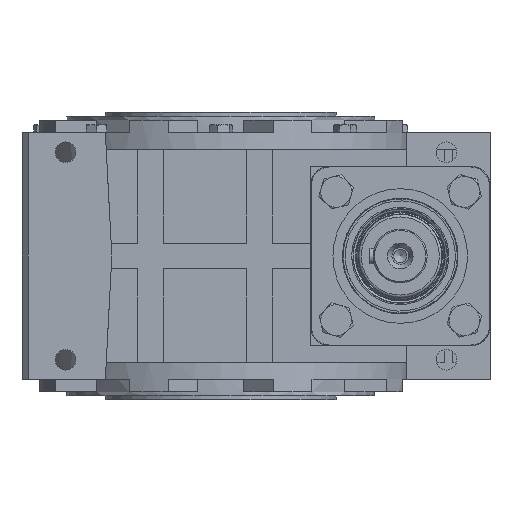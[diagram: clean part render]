
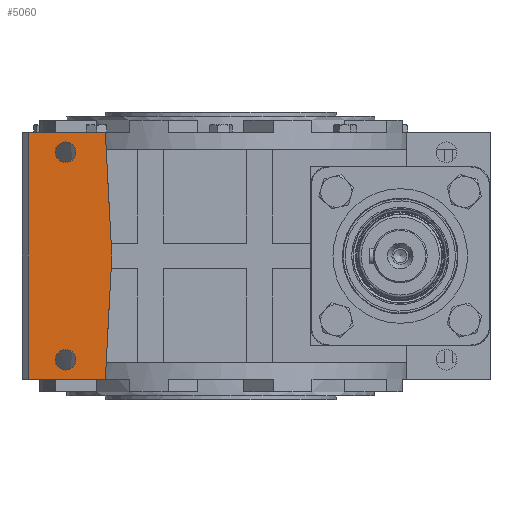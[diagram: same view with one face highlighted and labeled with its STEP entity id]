
A CAD part, left-side view. The second image highlights one B-rep face of the part: STEP entity #5060.
In plain terms, the highlighted planar face has unit normal (-1, 0, 0).
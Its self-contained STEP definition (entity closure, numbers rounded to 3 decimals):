
#1365 = EDGE_CURVE ( 'NONE', #22071, #10780, #16935, .T. ) ;
#1487 = EDGE_CURVE ( 'NONE', #11119, #16362, #15025, .T. ) ;
#1581 = CARTESIAN_POINT ( 'NONE',  ( -152.5, 129., -81. ) ) ;
#2000 = DIRECTION ( 'NONE',  ( 0., 1., 0. ) ) ;
#2071 = EDGE_CURVE ( 'NONE', #16362, #22071, #11172, .T. ) ;
#2075 = EDGE_CURVE ( 'NONE', #11119, #5428, #24386, .T. ) ;
#2157 = EDGE_CURVE ( 'NONE', #25253, #25253, #25590, .T. ) ;
#2164 = CARTESIAN_POINT ( 'NONE',  ( -152.5, 150., -96. ) ) ;
#2206 = EDGE_CURVE ( 'NONE', #5428, #10780, #23931, .T. ) ;
#2285 = EDGE_CURVE ( 'NONE', #25319, #25319, #22812, .T. ) ;
#3407 = EDGE_LOOP ( 'NONE', ( #16756 ) ) ;
#3710 = DIRECTION ( 'NONE',  ( -1., 0., 0. ) ) ;
#3733 = CARTESIAN_POINT ( 'NONE',  ( -152.5, 129., 81. ) ) ;
#4163 = VECTOR ( 'NONE', #23925, 1000. ) ;
#4570 = ORIENTED_EDGE ( 'NONE', *, *, #2206, .T. ) ;
#5060 = ADVANCED_FACE ( 'NONE', ( #22622, #22426, #6083 ), #12590, .F. ) ;
#5351 = CARTESIAN_POINT ( 'NONE',  ( -152.5, 90., -96. ) ) ;
#5428 = VERTEX_POINT ( 'NONE', #14194 ) ;
#6083 = FACE_OUTER_BOUND ( 'NONE', #18900, .T. ) ;
#6390 = DIRECTION ( 'NONE',  ( 1., 0., 0. ) ) ;
#6688 = AXIS2_PLACEMENT_3D ( 'NONE', #26735, #14504, #2000 ) ;
#8424 = CARTESIAN_POINT ( 'NONE',  ( -152.5, 84.969, 0. ) ) ;
#8907 = ORIENTED_EDGE ( 'NONE', *, *, #2075, .T. ) ;
#10218 = EDGE_LOOP ( 'NONE', ( #21529 ) ) ;
#10669 = DIRECTION ( 'NONE',  ( 0., 1., 0. ) ) ;
#10780 = VERTEX_POINT ( 'NONE', #2164 ) ;
#11041 = DIRECTION ( 'NONE',  ( 0., -0.052, -0.999 ) ) ;
#11119 = VERTEX_POINT ( 'NONE', #26414 ) ;
#11172 = LINE ( 'NONE', #5351, #4163 ) ;
#12177 = CARTESIAN_POINT ( 'NONE',  ( -152.5, 150., -96. ) ) ;
#12590 = PLANE ( 'NONE',  #23521 ) ;
#13436 = VECTOR ( 'NONE', #11041, 1000. ) ;
#13702 = CARTESIAN_POINT ( 'NONE',  ( -152.5, 90., 96. ) ) ;
#14194 = CARTESIAN_POINT ( 'NONE',  ( -152.5, 150., 96. ) ) ;
#14504 = DIRECTION ( 'NONE',  ( -1., 0., 0. ) ) ;
#14654 = CARTESIAN_POINT ( 'NONE',  ( -152.5, 90., -96. ) ) ;
#14731 = CARTESIAN_POINT ( 'NONE',  ( -152.5, 90., -96. ) ) ;
#15025 = LINE ( 'NONE', #25381, #13436 ) ;
#15494 = ORIENTED_EDGE ( 'NONE', *, *, #1365, .F. ) ;
#15757 = DIRECTION ( 'NONE',  ( 0., 1., 0. ) ) ;
#16121 = CARTESIAN_POINT ( 'NONE',  ( -152.5, 121., -81. ) ) ;
#16362 = VERTEX_POINT ( 'NONE', #8424 ) ;
#16756 = ORIENTED_EDGE ( 'NONE', *, *, #2157, .F. ) ;
#16935 = LINE ( 'NONE', #14731, #17638 ) ;
#17638 = VECTOR ( 'NONE', #10669, 1000. ) ;
#18181 = DIRECTION ( 'NONE',  ( 0., 1., 0. ) ) ;
#18714 = ORIENTED_EDGE ( 'NONE', *, *, #2071, .F. ) ;
#18900 = EDGE_LOOP ( 'NONE', ( #8907, #4570, #15494, #18714, #21834 ) ) ;
#20460 = DIRECTION ( 'NONE',  ( 0., 0., -1. ) ) ;
#20873 = DIRECTION ( 'NONE',  ( 0., -1., 0. ) ) ;
#21529 = ORIENTED_EDGE ( 'NONE', *, *, #2285, .F. ) ;
#21834 = ORIENTED_EDGE ( 'NONE', *, *, #1487, .F. ) ;
#22071 = VERTEX_POINT ( 'NONE', #23667 ) ;
#22426 = FACE_BOUND ( 'NONE', #10218, .T. ) ;
#22442 = AXIS2_PLACEMENT_3D ( 'NONE', #16121, #3710, #18181 ) ;
#22622 = FACE_BOUND ( 'NONE', #3407, .T. ) ;
#22812 = CIRCLE ( 'NONE', #6688, 8. ) ;
#23521 = AXIS2_PLACEMENT_3D ( 'NONE', #14654, #6390, #20873 ) ;
#23667 = CARTESIAN_POINT ( 'NONE',  ( -152.5, 90., -96. ) ) ;
#23668 = VECTOR ( 'NONE', #15757, 1000. ) ;
#23714 = VECTOR ( 'NONE', #20460, 1000. ) ;
#23925 = DIRECTION ( 'NONE',  ( 0., 0.052, -0.999 ) ) ;
#23931 = LINE ( 'NONE', #12177, #23714 ) ;
#24386 = LINE ( 'NONE', #13702, #23668 ) ;
#25253 = VERTEX_POINT ( 'NONE', #1581 ) ;
#25319 = VERTEX_POINT ( 'NONE', #3733 ) ;
#25381 = CARTESIAN_POINT ( 'NONE',  ( -152.5, 84.969, 0. ) ) ;
#25590 = CIRCLE ( 'NONE', #22442, 8. ) ;
#26414 = CARTESIAN_POINT ( 'NONE',  ( -152.5, 90., 96. ) ) ;
#26735 = CARTESIAN_POINT ( 'NONE',  ( -152.5, 121., 81. ) ) ;
